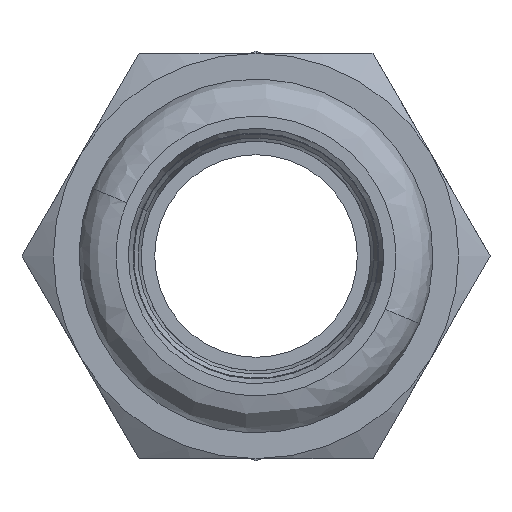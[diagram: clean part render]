
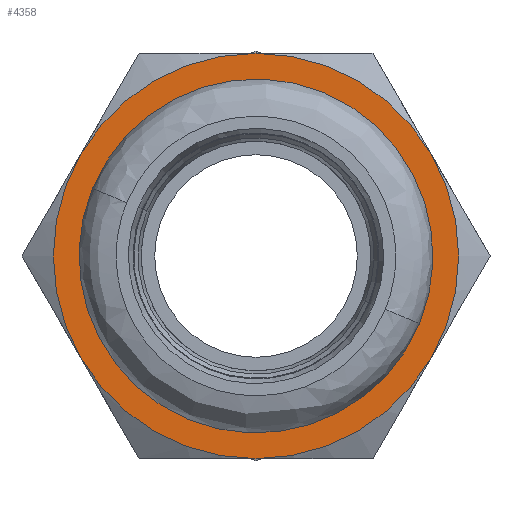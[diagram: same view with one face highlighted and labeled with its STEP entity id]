
A CAD part, left-side view. The second image highlights one B-rep face of the part: STEP entity #4358.
In plain terms, the highlighted planar face has unit normal (-1, 0, 0) as drawn and (0, 1, 0) by its records, which use the part's own axes.
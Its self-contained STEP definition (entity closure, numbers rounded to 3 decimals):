
#74 = ORIENTED_EDGE ( 'NONE', *, *, #252, .T. ) ;
#85 = DIRECTION ( 'NONE',  ( 0., 1., 0. ) ) ;
#153 = CARTESIAN_POINT ( 'NONE',  ( -12.99, 15., 7.5 ) ) ;
#164 = CARTESIAN_POINT ( 'NONE',  ( 0., 15., -15. ) ) ;
#224 = EDGE_CURVE ( 'NONE', #2652, #1992, #1936, .T. ) ;
#252 = EDGE_CURVE ( 'NONE', #1434, #4560, #3927, .T. ) ;
#311 = CARTESIAN_POINT ( 'NONE',  ( 0., 15., 0. ) ) ;
#319 = FACE_OUTER_BOUND ( 'NONE', #2061, .T. ) ;
#373 = ORIENTED_EDGE ( 'NONE', *, *, #1857, .T. ) ;
#389 = DIRECTION ( 'NONE',  ( 1., 0., 0. ) ) ;
#406 = DIRECTION ( 'NONE',  ( 0., 1., 0. ) ) ;
#463 = CARTESIAN_POINT ( 'NONE',  ( 0., 15., 0. ) ) ;
#499 = CARTESIAN_POINT ( 'NONE',  ( 0., 15., 15. ) ) ;
#520 = DIRECTION ( 'NONE',  ( 0., -1., 0. ) ) ;
#527 = CARTESIAN_POINT ( 'NONE',  ( 0., 15., 0. ) ) ;
#579 = ORIENTED_EDGE ( 'NONE', *, *, #4781, .T. ) ;
#648 = CIRCLE ( 'NONE', #3562, 15. ) ;
#737 = DIRECTION ( 'NONE',  ( 0., -1., 0. ) ) ;
#901 = CIRCLE ( 'NONE', #1646, 15. ) ;
#935 = AXIS2_PLACEMENT_3D ( 'NONE', #311, #737, #1906 ) ;
#973 = CARTESIAN_POINT ( 'NONE',  ( 0., 15., 0. ) ) ;
#974 = DIRECTION ( 'NONE',  ( 0., 0., 1. ) ) ;
#1105 = AXIS2_PLACEMENT_3D ( 'NONE', #4414, #3345, #974 ) ;
#1117 = DIRECTION ( 'NONE',  ( 0., 1., 0. ) ) ;
#1212 = AXIS2_PLACEMENT_3D ( 'NONE', #4827, #3601, #1700 ) ;
#1276 = ORIENTED_EDGE ( 'NONE', *, *, #1431, .T. ) ;
#1284 = AXIS2_PLACEMENT_3D ( 'NONE', #3106, #1117, #3084 ) ;
#1310 = DIRECTION ( 'NONE',  ( 0., 1., 0. ) ) ;
#1406 = EDGE_CURVE ( 'NONE', #1992, #3328, #3838, .T. ) ;
#1414 = CIRCLE ( 'NONE', #4593, 15. ) ;
#1431 = EDGE_CURVE ( 'NONE', #3328, #1476, #4854, .T. ) ;
#1434 = VERTEX_POINT ( 'NONE', #2415 ) ;
#1476 = VERTEX_POINT ( 'NONE', #499 ) ;
#1583 = DIRECTION ( 'NONE',  ( 0., 1., 0. ) ) ;
#1617 = CARTESIAN_POINT ( 'NONE',  ( 12.99, 15., -7.5 ) ) ;
#1646 = AXIS2_PLACEMENT_3D ( 'NONE', #3252, #1583, #4308 ) ;
#1694 = CARTESIAN_POINT ( 'NONE',  ( 12.99, 15., 7.5 ) ) ;
#1700 = DIRECTION ( 'NONE',  ( 0., 0., -1. ) ) ;
#1738 = AXIS2_PLACEMENT_3D ( 'NONE', #2861, #85, #3952 ) ;
#1778 = CARTESIAN_POINT ( 'NONE',  ( -12.99, 15., -7.5 ) ) ;
#1857 = EDGE_CURVE ( 'NONE', #4560, #1434, #2332, .T. ) ;
#1864 = ORIENTED_EDGE ( 'NONE', *, *, #2345, .T. ) ;
#1906 = DIRECTION ( 'NONE',  ( 0., 0., 1. ) ) ;
#1936 = CIRCLE ( 'NONE', #1284, 15. ) ;
#1992 = VERTEX_POINT ( 'NONE', #1778 ) ;
#2061 = EDGE_LOOP ( 'NONE', ( #2418, #2127, #1276, #1864, #2234, #579 ) ) ;
#2127 = ORIENTED_EDGE ( 'NONE', *, *, #1406, .T. ) ;
#2183 = VERTEX_POINT ( 'NONE', #1617 ) ;
#2234 = ORIENTED_EDGE ( 'NONE', *, *, #2434, .T. ) ;
#2332 = CIRCLE ( 'NONE', #2581, 10.8 ) ;
#2345 = EDGE_CURVE ( 'NONE', #1476, #3265, #1414, .T. ) ;
#2415 = CARTESIAN_POINT ( 'NONE',  ( 0., 15., 10.8 ) ) ;
#2418 = ORIENTED_EDGE ( 'NONE', *, *, #224, .T. ) ;
#2434 = EDGE_CURVE ( 'NONE', #3265, #2183, #901, .T. ) ;
#2581 = AXIS2_PLACEMENT_3D ( 'NONE', #973, #520, #4059 ) ;
#2583 = FACE_BOUND ( 'NONE', #3850, .T. ) ;
#2652 = VERTEX_POINT ( 'NONE', #164 ) ;
#2861 = CARTESIAN_POINT ( 'NONE',  ( 0., 15., 0. ) ) ;
#3084 = DIRECTION ( 'NONE',  ( 0., 0., -1. ) ) ;
#3106 = CARTESIAN_POINT ( 'NONE',  ( 0., 15., 0. ) ) ;
#3252 = CARTESIAN_POINT ( 'NONE',  ( 0., 15., 0. ) ) ;
#3265 = VERTEX_POINT ( 'NONE', #1694 ) ;
#3274 = DIRECTION ( 'NONE',  ( 0., 0., -1. ) ) ;
#3328 = VERTEX_POINT ( 'NONE', #153 ) ;
#3345 = DIRECTION ( 'NONE',  ( 0., 1., 0. ) ) ;
#3562 = AXIS2_PLACEMENT_3D ( 'NONE', #463, #406, #389 ) ;
#3601 = DIRECTION ( 'NONE',  ( 0., 1., 0. ) ) ;
#3838 = CIRCLE ( 'NONE', #1738, 15. ) ;
#3850 = EDGE_LOOP ( 'NONE', ( #74, #373 ) ) ;
#3927 = CIRCLE ( 'NONE', #935, 10.8 ) ;
#3952 = DIRECTION ( 'NONE',  ( 1., 0., 0. ) ) ;
#4059 = DIRECTION ( 'NONE',  ( 0., 0., 1. ) ) ;
#4213 = CARTESIAN_POINT ( 'NONE',  ( 0., 15., -10.8 ) ) ;
#4308 = DIRECTION ( 'NONE',  ( 0., 0., -1. ) ) ;
#4358 = ADVANCED_FACE ( 'NONE', ( #319, #2583 ), #4793, .T. ) ;
#4414 = CARTESIAN_POINT ( 'NONE',  ( 0., 15., 0. ) ) ;
#4560 = VERTEX_POINT ( 'NONE', #4213 ) ;
#4593 = AXIS2_PLACEMENT_3D ( 'NONE', #527, #1310, #3274 ) ;
#4781 = EDGE_CURVE ( 'NONE', #2183, #2652, #648, .T. ) ;
#4793 = PLANE ( 'NONE',  #1105 ) ;
#4827 = CARTESIAN_POINT ( 'NONE',  ( 0., 15., 0. ) ) ;
#4854 = CIRCLE ( 'NONE', #1212, 15. ) ;
